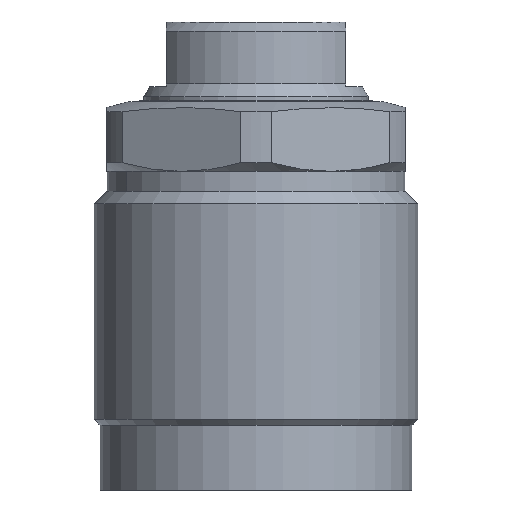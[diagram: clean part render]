
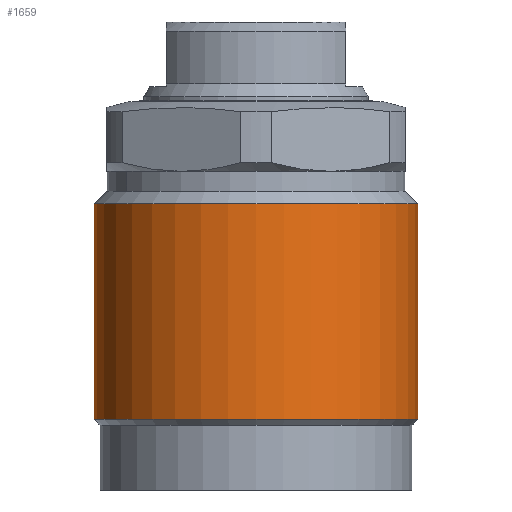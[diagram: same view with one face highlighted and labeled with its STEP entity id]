
A CAD part, front view. The second image highlights one B-rep face of the part: STEP entity #1659.
In plain terms, the highlighted cylindrical face has radius 32.5 mm (diameter 65 mm), a partial arc.
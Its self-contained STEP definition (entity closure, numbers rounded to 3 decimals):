
#1596=CARTESIAN_POINT('',(-32.5,0.0,-63.8));
#1597=VERTEX_POINT('',#1596);
#1605=CARTESIAN_POINT('',(32.5,0.0,-63.8));
#1606=VERTEX_POINT('',#1605);
#1613=CARTESIAN_POINT('',(-0.0,0.0,-63.8));
#1614=DIRECTION('',(0.0,0.0,1.0));
#1615=DIRECTION('',(1.0,0.0,-0.0));
#1616=AXIS2_PLACEMENT_3D('',#1613,#1614,#1615);
#1617=CIRCLE('',#1616,32.5);
#1618=EDGE_CURVE('no 2420',#1597,#1606,#1617,.T.);
#1628=CARTESIAN_POINT('',(-32.5,0.0,-20.5));
#1629=VERTEX_POINT('',#1628);
#1630=CARTESIAN_POINT('',(-32.5,0.0,-63.8));
#1631=DIRECTION('',(0.0,-0.0,1.0));
#1632=VECTOR('',#1631,1.0);
#1633=LINE('',#1630,#1632);
#1634=EDGE_CURVE('no 2430',#1597,#1629,#1633,.T.);
#1635=ORIENTED_EDGE('',*,*,#1634,.F.);
#1636=ORIENTED_EDGE('',*,*,#1618,.T.);
#1637=CARTESIAN_POINT('',(32.5,0.0,-20.5));
#1638=VERTEX_POINT('',#1637);
#1639=CARTESIAN_POINT('',(32.5,0.0,-63.8));
#1640=DIRECTION('',(0.0,0.0,1.0));
#1641=VECTOR('',#1640,1.0);
#1642=LINE('',#1639,#1641);
#1643=EDGE_CURVE('no 2438',#1606,#1638,#1642,.T.);
#1644=ORIENTED_EDGE('',*,*,#1643,.T.);
#1645=CARTESIAN_POINT('',(-0.0,0.0,-20.5));
#1646=DIRECTION('',(0.0,0.0,1.0));
#1647=DIRECTION('',(1.0,0.0,-0.0));
#1648=AXIS2_PLACEMENT_3D('',#1645,#1646,#1647);
#1649=CIRCLE('',#1648,32.5);
#1650=EDGE_CURVE('no 2442',#1629,#1638,#1649,.T.);
#1651=ORIENTED_EDGE('',*,*,#1650,.F.);
#1652=EDGE_LOOP('',(#1635,#1636,#1644,#1651));
#1653=FACE_OUTER_BOUND('',#1652,.T.);
#1654=CARTESIAN_POINT('',(0.0,0.0,10.166));
#1655=DIRECTION('',(0.0,0.0,1.0));
#1656=DIRECTION('',(0.0,1.0,-0.0));
#1657=AXIS2_PLACEMENT_3D('',#1654,#1655,#1656);
#1658=CYLINDRICAL_SURFACE('',#1657,32.5);
#1659=ADVANCED_FACE('no 2423',(#1653),#1658,.T.);
